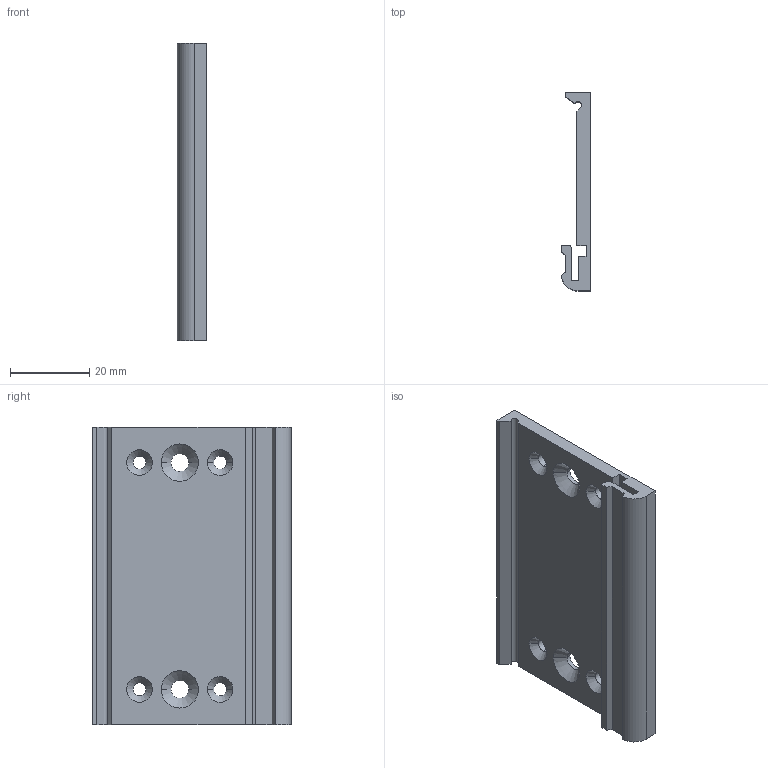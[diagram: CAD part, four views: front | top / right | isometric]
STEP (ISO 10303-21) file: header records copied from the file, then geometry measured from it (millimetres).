
FILE_DESCRIPTION((''),'2;1');
FILE_NAME('CU_DIN_RAIL_CLIP_DAQ','2010-07-21T',('chrisj'),(''),'PRO/ENGINEER BY PARAMETRIC TECHNOLOGY CORPORATION, 2006510','PRO/ENGINEER BY PARAMETRIC TECHNOLOGY CORPORATION, 2006510','');
FILE_SCHEMA(('AUTOMOTIVE_DESIGN_CC2 { 1 2 10303 214 -1 1 5 2 }'));
Length unit declared in the file: inch
Products named in the file (1): CU_DIN_RAIL_CLIP_DAQ
Bounding box: 7.49 x 50 x 75 mm (x, y, z)
Volume: 14081.2 mm3; surface area: 11163.4 mm2
Topology: 1 solids, 1 shells, 48 faces, 134 edges, 88 vertices
Faces by surface type: plane 21, cylinder 15, cone 12
Entity records: 1631 total; most frequent: DIRECTION 280, CARTESIAN_POINT 270, ORIENTED_EDGE 268, EDGE_CURVE 134, AXIS2_PLACEMENT_3D 98, VERTEX_POINT 88, VECTOR 84, LINE 84
